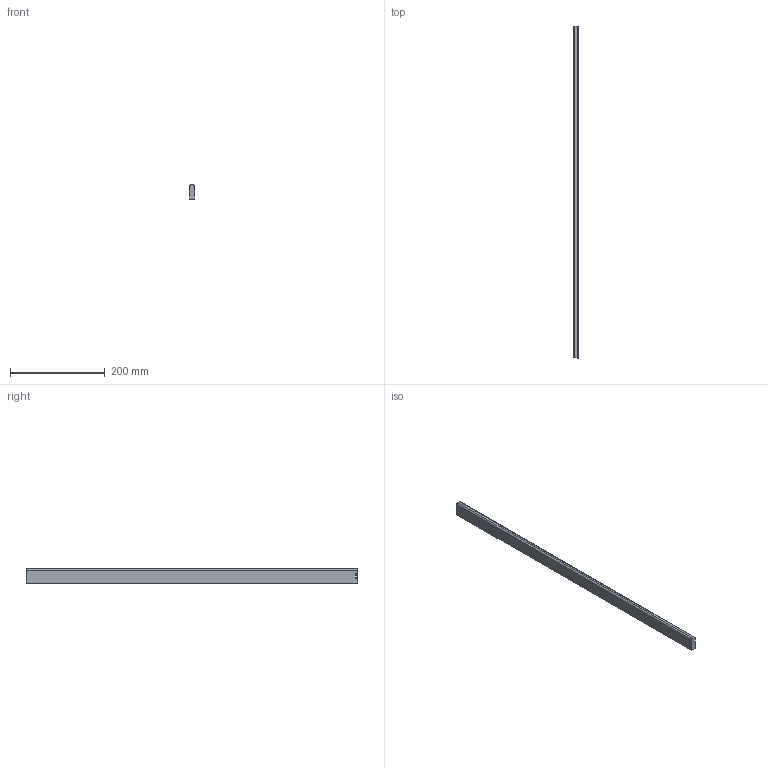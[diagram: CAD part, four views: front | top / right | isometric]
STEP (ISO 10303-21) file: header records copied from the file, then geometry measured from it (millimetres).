
FILE_DESCRIPTION (( 'STEP AP214' ), '1' );
FILE_NAME ('_Seitenreling_S760605500_RL700,5.step', '2010-09-06T14:51:30', ( 'grass' ), ( '' ), 'SwSTEP 2.0', 'SolidWorks 2010', '' );
FILE_SCHEMA (( 'AUTOMOTIVE_DESIGN' ));
Length unit declared in the file: millimetre
Products named in the file (1): _Seitenreling_S760605500_RL700,5
Bounding box: 10.5 x 700.5 x 30 mm (x, y, z)
Volume: 217712.9 mm3; surface area: 55771 mm2
Topology: 1 solids, 1 shells, 12 faces, 30 edges, 20 vertices
Faces by surface type: plane 8, cylinder 4
Entity records: 400 total; most frequent: DIRECTION 64, CARTESIAN_POINT 63, ORIENTED_EDGE 60, EDGE_CURVE 30, LINE 22, VECTOR 22, AXIS2_PLACEMENT_3D 21, VERTEX_POINT 20
